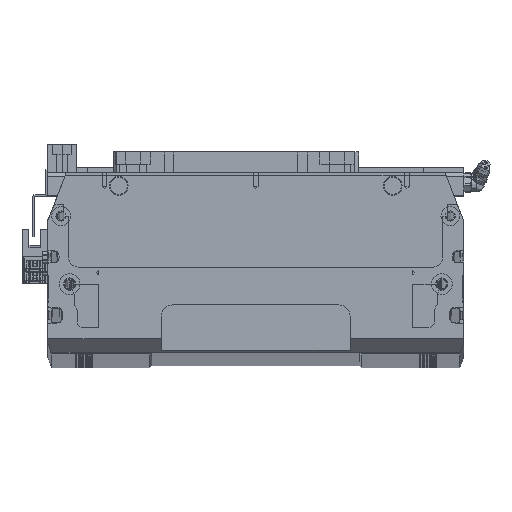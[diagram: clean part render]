
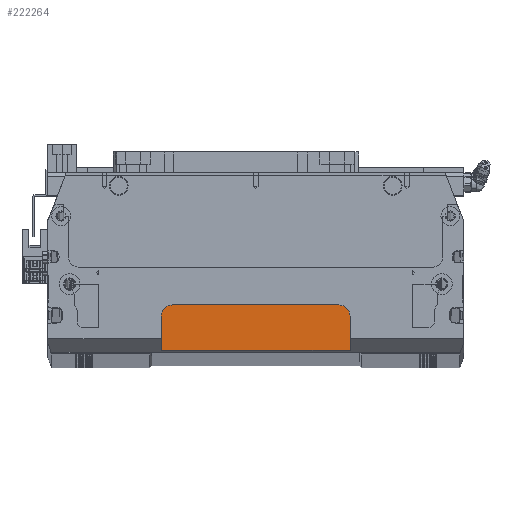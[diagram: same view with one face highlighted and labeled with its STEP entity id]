
A CAD part, top view. The second image highlights one B-rep face of the part: STEP entity #222264.
In plain terms, the highlighted planar face has unit normal (0, 0, 1) as drawn and (0, 1, 0) by its records, which use the part's own axes.
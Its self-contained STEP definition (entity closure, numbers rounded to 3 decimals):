
#2302 = EDGE_CURVE ( 'NONE', #47040, #448364, #285334, .T. ) ;
#8072 = VERTEX_POINT ( 'NONE', #219954 ) ;
#9381 = CARTESIAN_POINT ( 'NONE',  ( 50., 8., 39.25 ) ) ;
#13382 = CARTESIAN_POINT ( 'NONE',  ( -50., 8., 33.25 ) ) ;
#47040 = VERTEX_POINT ( 'NONE', #266863 ) ;
#47689 = AXIS2_PLACEMENT_3D ( 'NONE', #402253, #69042, #477923 ) ;
#55070 = EDGE_CURVE ( 'NONE', #8072, #47040, #365116, .T. ) ;
#64816 = CARTESIAN_POINT ( 'NONE',  ( 50., 8., 57.25 ) ) ;
#69042 = DIRECTION ( 'NONE',  ( 0., 1., 0. ) ) ;
#79172 = EDGE_LOOP ( 'NONE', ( #286805, #457601, #452309, #153473, #103303, #89193 ) ) ;
#89193 = ORIENTED_EDGE ( 'NONE', *, *, #247678, .F. ) ;
#103303 = ORIENTED_EDGE ( 'NONE', *, *, #2302, .T. ) ;
#116530 = VERTEX_POINT ( 'NONE', #9381 ) ;
#121692 = DIRECTION ( 'NONE',  ( 0., 0., 1. ) ) ;
#148453 = DIRECTION ( 'NONE',  ( -1., 0., 0. ) ) ;
#153473 = ORIENTED_EDGE ( 'NONE', *, *, #55070, .T. ) ;
#157858 = DIRECTION ( 'NONE',  ( 0., 0., -1. ) ) ;
#159183 = LINE ( 'NONE', #13382, #210907 ) ;
#169276 = DIRECTION ( 'NONE',  ( 0., 1., 0. ) ) ;
#181337 = EDGE_CURVE ( 'NONE', #341266, #8072, #159183, .T. ) ;
#183914 = DIRECTION ( 'NONE',  ( 0., 0., -1. ) ) ;
#185470 = CARTESIAN_POINT ( 'NONE',  ( 110., 8., 57.25 ) ) ;
#187447 = VECTOR ( 'NONE', #121692, 1000. ) ;
#189716 = AXIS2_PLACEMENT_3D ( 'NONE', #450881, #413804, #157858 ) ;
#210907 = VECTOR ( 'NONE', #386710, 1000. ) ;
#219954 = CARTESIAN_POINT ( 'NONE',  ( -44., 8., 33.25 ) ) ;
#222264 = ADVANCED_FACE ( 'NONE', ( #267602 ), #302754, .F. ) ;
#247678 = EDGE_CURVE ( 'NONE', #428727, #448364, #430486, .T. ) ;
#254032 = EDGE_CURVE ( 'NONE', #428727, #116530, #338229, .T. ) ;
#266863 = CARTESIAN_POINT ( 'NONE',  ( -50., 8., 39.25 ) ) ;
#267602 = FACE_OUTER_BOUND ( 'NONE', #79172, .T. ) ;
#273056 = AXIS2_PLACEMENT_3D ( 'NONE', #278755, #169276, #462295 ) ;
#278755 = CARTESIAN_POINT ( 'NONE',  ( 44., 8., 39.25 ) ) ;
#285334 = LINE ( 'NONE', #311517, #187447 ) ;
#286805 = ORIENTED_EDGE ( 'NONE', *, *, #254032, .T. ) ;
#292024 = VECTOR ( 'NONE', #183914, 1000. ) ;
#301113 = CIRCLE ( 'NONE', #273056, 6. ) ;
#302754 = PLANE ( 'NONE',  #189716 ) ;
#311517 = CARTESIAN_POINT ( 'NONE',  ( -50., 8., 58.25 ) ) ;
#338229 = LINE ( 'NONE', #365834, #292024 ) ;
#341266 = VERTEX_POINT ( 'NONE', #354598 ) ;
#354598 = CARTESIAN_POINT ( 'NONE',  ( 44., 8., 33.25 ) ) ;
#361234 = VECTOR ( 'NONE', #148453, 1000. ) ;
#365116 = CIRCLE ( 'NONE', #47689, 6. ) ;
#365834 = CARTESIAN_POINT ( 'NONE',  ( 50., 8., 58.25 ) ) ;
#386710 = DIRECTION ( 'NONE',  ( -1., 0., 0. ) ) ;
#402253 = CARTESIAN_POINT ( 'NONE',  ( -44., 8., 39.25 ) ) ;
#413804 = DIRECTION ( 'NONE',  ( 0., -1., 0. ) ) ;
#422031 = CARTESIAN_POINT ( 'NONE',  ( -50., 8., 57.25 ) ) ;
#428727 = VERTEX_POINT ( 'NONE', #64816 ) ;
#430486 = LINE ( 'NONE', #185470, #361234 ) ;
#448364 = VERTEX_POINT ( 'NONE', #422031 ) ;
#450881 = CARTESIAN_POINT ( 'NONE',  ( 0., 8., 0. ) ) ;
#452309 = ORIENTED_EDGE ( 'NONE', *, *, #181337, .T. ) ;
#457601 = ORIENTED_EDGE ( 'NONE', *, *, #469105, .T. ) ;
#462295 = DIRECTION ( 'NONE',  ( 0., 0., -1. ) ) ;
#469105 = EDGE_CURVE ( 'NONE', #116530, #341266, #301113, .T. ) ;
#477923 = DIRECTION ( 'NONE',  ( 0., 0., -1. ) ) ;
